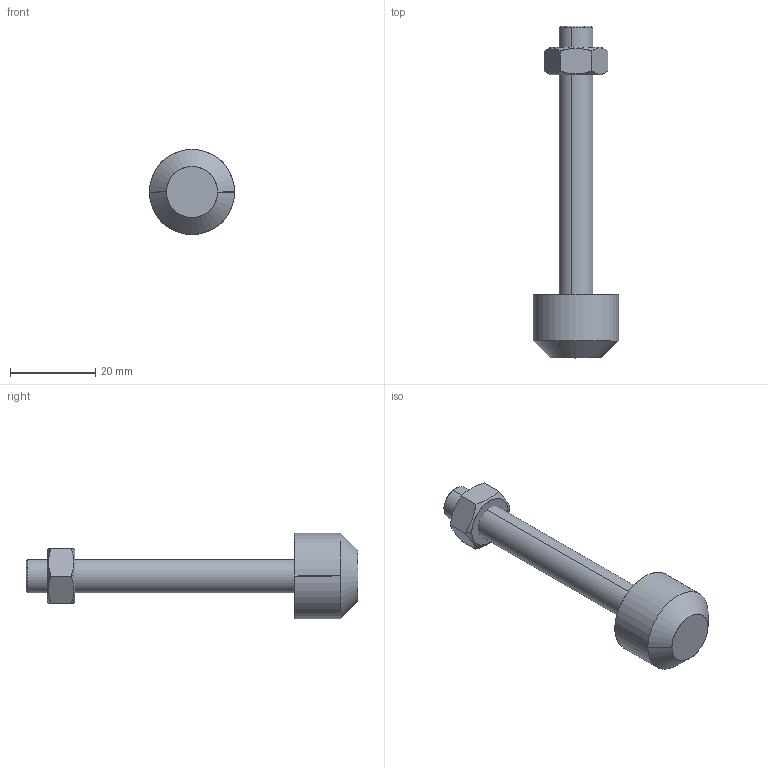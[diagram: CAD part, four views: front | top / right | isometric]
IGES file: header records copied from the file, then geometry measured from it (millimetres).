
Start section: SolidWorks IGES file using analytic representation for surfaces
Global section: file name: C:\Projetos\Ponteiras\PB\PB-M8.IGS; native system: SolidWorks 2015; preprocessor: SolidWorks 2015; author: Ricardo; date: 160725.145748; units: millimetre
Bounding box: 20 x 78 x 20 mm (x, y, z)
Surface area: 4059.4 mm2 (no closed solid volume)
Topology: 0 solids, 0 shells, 36 faces, 568 edges, 566 vertices
Faces by surface type: revolution 24, bspline 12
